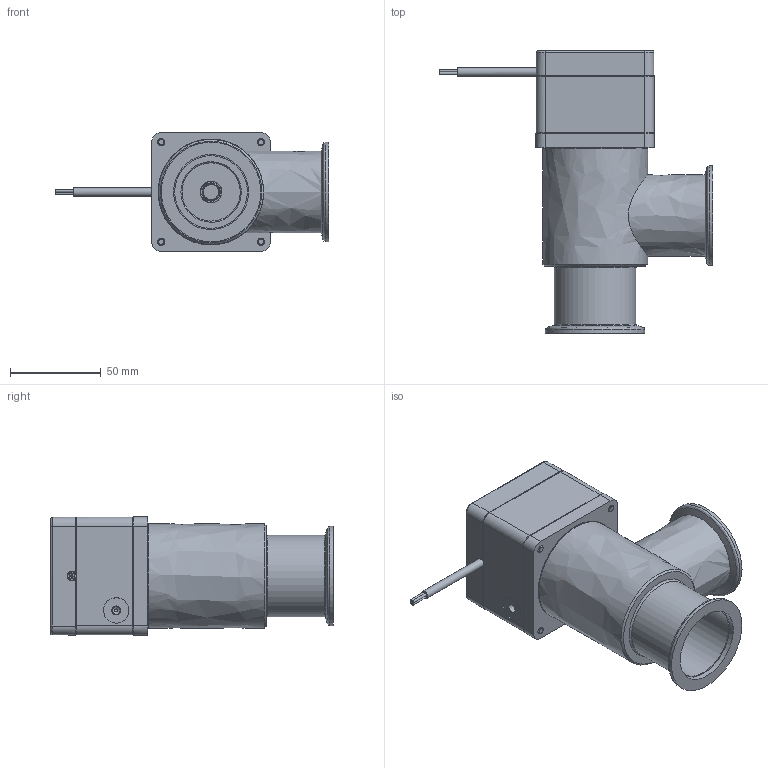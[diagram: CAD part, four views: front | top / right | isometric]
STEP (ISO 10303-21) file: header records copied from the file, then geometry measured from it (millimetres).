
FILE_DESCRIPTION((''),'2;1');
FILE_NAME('C:\TEMP\IDEAS\264789.stp','2006-09-19T16:00:23',('User'),( 'SDRC'),'I-DEAS Master Series 9','UNIX','Yes');
FILE_SCHEMA(('CONFIG_CONTROL_DESIGN'));
Length unit declared in the file: millimetre
Assembly tree (14 placements, depth 0):
Bounding box: 151.04 x 155.7 x 65.4 mm (x, y, z)
Volume: 152132.2 mm3; surface area: 110338.2 mm2
Topology: 13 solids, 13 shells, 503 faces, 1256 edges, 816 vertices
Faces by surface type: bspline 503
Entity records: 16674 total; most frequent: CARTESIAN_POINT 8377, ORIENTED_EDGE 2266, EDGE_CURVE 1133, VERTEX_POINT 735, EDGE_LOOP 508, B_SPLINE_CURVE_WITH_KNOTS 477, FACE_OUTER_BOUND 446, ADVANCED_FACE 446
